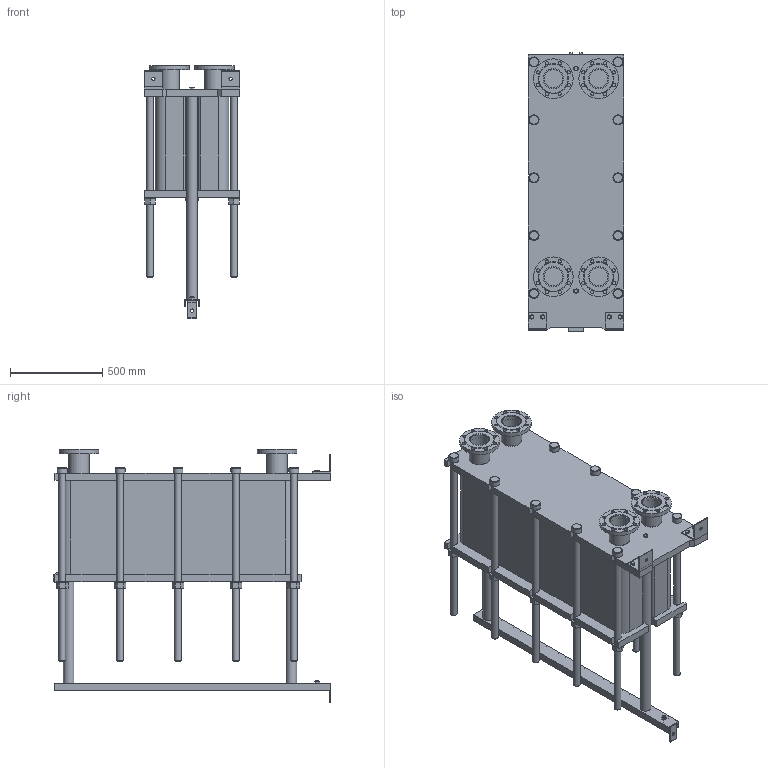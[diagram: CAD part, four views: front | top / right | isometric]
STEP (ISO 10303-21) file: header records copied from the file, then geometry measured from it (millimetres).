
FILE_DESCRIPTION(/* description */ (''),/* implementation_level */ '2;1');
FILE_NAME(/* name */ 'C:\Users\zhuro\Desktop\ENCO\TO\ЭН-04\ЭН-0,5-04-148-1.stp',/* time_stamp */ '2022-06-06T10:58:37+03:00',/* author */ ('zhuro'),/* organization */ (''),/* preprocessor_version */ 'ST-DEVELOPER v18.1',/* originating_system */ 'Autodesk Inventor 2022',/* authorisation */ '');
FILE_SCHEMA (('AUTOMOTIVE_DESIGN { 1 0 10303 214 3 1 1 }'));
Length unit declared in the file: millimetre
Products named in the file (1): ЭН-0,5-04-148-1
Bounding box: 520 x 1510 x 1379 mm (x, y, z)
Volume: 328965213.7 mm3; surface area: 9410786.5 mm2
Topology: 45 solids, 45 shells, 668 faces, 1611 edges, 1048 vertices
Faces by surface type: plane 457, cylinder 166, cone 39, torus 6
Full cylindrical faces by diameter (mm): 8 x4, 10 x2, 16 x8, 18 x35, 36 x25, 40 x2, 42 x1, 45 x4, 54 x10, 57 x2, 60 x10, 68 x2, 100 x4, 110 x8, 215 x4
Entity records: 23607 total; most frequent: CARTESIAN_POINT 7348, DIRECTION 3371, ORIENTED_EDGE 3142, EDGE_CURVE 1571, AXIS2_PLACEMENT_3D 1199, VERTEX_POINT 1044, LINE 973, VECTOR 973
